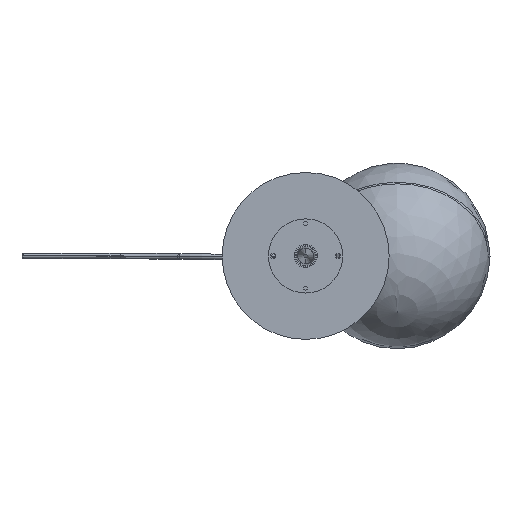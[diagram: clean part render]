
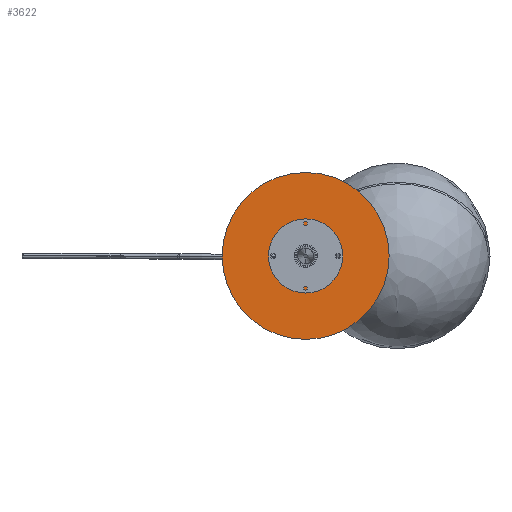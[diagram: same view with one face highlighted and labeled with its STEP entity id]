
A CAD part, front view. The second image highlights one B-rep face of the part: STEP entity #3622.
In plain terms, the highlighted planar face has unit normal (0, -1, 0) as drawn and (0, 1, 0) by its records, which use the part's own axes.
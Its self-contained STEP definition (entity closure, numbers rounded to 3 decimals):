
#43 = AXIS2_PLACEMENT_3D ( 'NONE', #4011, #146, #6633 ) ;
#105 = EDGE_LOOP ( 'NONE', ( #5638, #1076 ) ) ;
#146 = DIRECTION ( 'NONE',  ( 0., 1., 0. ) ) ;
#165 = EDGE_CURVE ( 'NONE', #4429, #6287, #6739, .T. ) ;
#189 = ORIENTED_EDGE ( 'NONE', *, *, #6741, .T. ) ;
#312 = EDGE_LOOP ( 'NONE', ( #189, #6492 ) ) ;
#782 = CARTESIAN_POINT ( 'NONE',  ( 0., 2., 0. ) ) ;
#939 = DIRECTION ( 'NONE',  ( 0., 0., 1. ) ) ;
#968 = CIRCLE ( 'NONE', #3006, 2.75 ) ;
#983 = AXIS2_PLACEMENT_3D ( 'NONE', #2688, #7094, #2002 ) ;
#1076 = ORIENTED_EDGE ( 'NONE', *, *, #2313, .F. ) ;
#1240 = ORIENTED_EDGE ( 'NONE', *, *, #6243, .F. ) ;
#1307 = DIRECTION ( 'NONE',  ( 0., 1., 0. ) ) ;
#1337 = EDGE_LOOP ( 'NONE', ( #2773, #1240 ) ) ;
#1356 = AXIS2_PLACEMENT_3D ( 'NONE', #3747, #8213, #7619 ) ;
#1389 = CARTESIAN_POINT ( 'NONE',  ( 0., 2., 7. ) ) ;
#1462 = FACE_BOUND ( 'NONE', #1813, .T. ) ;
#1623 = VERTEX_POINT ( 'NONE', #7078 ) ;
#1681 = AXIS2_PLACEMENT_3D ( 'NONE', #4982, #5790, #3179 ) ;
#1813 = EDGE_LOOP ( 'NONE', ( #2057, #4458 ) ) ;
#2002 = DIRECTION ( 'NONE',  ( 0., 0., 1. ) ) ;
#2027 = CARTESIAN_POINT ( 'NONE',  ( 35., 2., 0. ) ) ;
#2057 = ORIENTED_EDGE ( 'NONE', *, *, #165, .T. ) ;
#2135 = CARTESIAN_POINT ( 'NONE',  ( -35., 2., 0. ) ) ;
#2216 = CIRCLE ( 'NONE', #983, 90. ) ;
#2221 = DIRECTION ( 'NONE',  ( 0., -1., 0. ) ) ;
#2313 = EDGE_CURVE ( 'NONE', #1623, #6349, #5449, .T. ) ;
#2448 = AXIS2_PLACEMENT_3D ( 'NONE', #6664, #2221, #7949 ) ;
#2468 = CIRCLE ( 'NONE', #8339, 90. ) ;
#2588 = CARTESIAN_POINT ( 'NONE',  ( 0., 2., 0. ) ) ;
#2645 = CARTESIAN_POINT ( 'NONE',  ( 0., 2., -90. ) ) ;
#2688 = CARTESIAN_POINT ( 'NONE',  ( 0., 2., 0. ) ) ;
#2740 = FACE_BOUND ( 'NONE', #1337, .T. ) ;
#2773 = ORIENTED_EDGE ( 'NONE', *, *, #7396, .F. ) ;
#2785 = FACE_BOUND ( 'NONE', #105, .T. ) ;
#2991 = CIRCLE ( 'NONE', #2448, 7. ) ;
#3006 = AXIS2_PLACEMENT_3D ( 'NONE', #2027, #1307, #3344 ) ;
#3179 = DIRECTION ( 'NONE',  ( 0., 0., 1. ) ) ;
#3308 = CARTESIAN_POINT ( 'NONE',  ( -35., 2., 2.75 ) ) ;
#3344 = DIRECTION ( 'NONE',  ( 0., 0., 1. ) ) ;
#3622 = ADVANCED_FACE ( 'NONE', ( #1462, #2785, #6591, #2740 ), #5214, .T. ) ;
#3679 = VERTEX_POINT ( 'NONE', #7915 ) ;
#3690 = CIRCLE ( 'NONE', #5605, 2.75 ) ;
#3747 = CARTESIAN_POINT ( 'NONE',  ( 35., 2., 0. ) ) ;
#4011 = CARTESIAN_POINT ( 'NONE',  ( -35., 2., 0. ) ) ;
#4189 = VERTEX_POINT ( 'NONE', #6828 ) ;
#4388 = EDGE_CURVE ( 'NONE', #6349, #1623, #968, .T. ) ;
#4429 = VERTEX_POINT ( 'NONE', #1389 ) ;
#4458 = ORIENTED_EDGE ( 'NONE', *, *, #8150, .T. ) ;
#4982 = CARTESIAN_POINT ( 'NONE',  ( 0., 2., 0. ) ) ;
#5012 = DIRECTION ( 'NONE',  ( 0., 1., 0. ) ) ;
#5214 = PLANE ( 'NONE',  #8326 ) ;
#5255 = DIRECTION ( 'NONE',  ( 0., 1., 0. ) ) ;
#5414 = EDGE_CURVE ( 'NONE', #3679, #6620, #2468, .T. ) ;
#5449 = CIRCLE ( 'NONE', #1356, 2.75 ) ;
#5584 = VERTEX_POINT ( 'NONE', #3308 ) ;
#5605 = AXIS2_PLACEMENT_3D ( 'NONE', #2135, #7402, #939 ) ;
#5638 = ORIENTED_EDGE ( 'NONE', *, *, #4388, .F. ) ;
#5790 = DIRECTION ( 'NONE',  ( 0., -1., 0. ) ) ;
#5857 = DIRECTION ( 'NONE',  ( 0., 0., 1. ) ) ;
#6112 = CARTESIAN_POINT ( 'NONE',  ( 0., 2., -7. ) ) ;
#6243 = EDGE_CURVE ( 'NONE', #5584, #4189, #3690, .T. ) ;
#6287 = VERTEX_POINT ( 'NONE', #6112 ) ;
#6349 = VERTEX_POINT ( 'NONE', #6711 ) ;
#6492 = ORIENTED_EDGE ( 'NONE', *, *, #5414, .T. ) ;
#6583 = CIRCLE ( 'NONE', #43, 2.75 ) ;
#6591 = FACE_OUTER_BOUND ( 'NONE', #312, .T. ) ;
#6620 = VERTEX_POINT ( 'NONE', #2645 ) ;
#6633 = DIRECTION ( 'NONE',  ( 0., 0., 1. ) ) ;
#6664 = CARTESIAN_POINT ( 'NONE',  ( 0., 2., 0. ) ) ;
#6711 = CARTESIAN_POINT ( 'NONE',  ( 35., 2., -2.75 ) ) ;
#6739 = CIRCLE ( 'NONE', #1681, 7. ) ;
#6741 = EDGE_CURVE ( 'NONE', #6620, #3679, #2216, .T. ) ;
#6828 = CARTESIAN_POINT ( 'NONE',  ( -35., 2., -2.75 ) ) ;
#7078 = CARTESIAN_POINT ( 'NONE',  ( 35., 2., 2.75 ) ) ;
#7094 = DIRECTION ( 'NONE',  ( 0., 1., 0. ) ) ;
#7396 = EDGE_CURVE ( 'NONE', #4189, #5584, #6583, .T. ) ;
#7402 = DIRECTION ( 'NONE',  ( 0., 1., 0. ) ) ;
#7619 = DIRECTION ( 'NONE',  ( 0., 0., 1. ) ) ;
#7640 = DIRECTION ( 'NONE',  ( 0., 0., 1. ) ) ;
#7915 = CARTESIAN_POINT ( 'NONE',  ( 0., 2., 90. ) ) ;
#7949 = DIRECTION ( 'NONE',  ( 0., 0., 1. ) ) ;
#8150 = EDGE_CURVE ( 'NONE', #6287, #4429, #2991, .T. ) ;
#8213 = DIRECTION ( 'NONE',  ( 0., 1., 0. ) ) ;
#8326 = AXIS2_PLACEMENT_3D ( 'NONE', #782, #5255, #5857 ) ;
#8339 = AXIS2_PLACEMENT_3D ( 'NONE', #2588, #5012, #7640 ) ;
